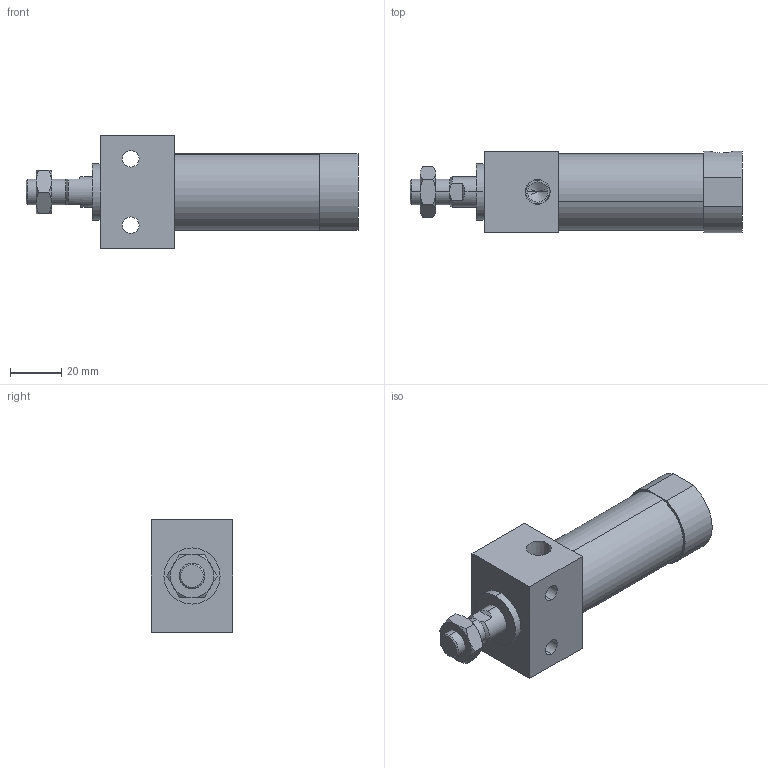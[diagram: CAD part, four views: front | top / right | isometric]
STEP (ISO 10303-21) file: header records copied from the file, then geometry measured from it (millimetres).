
FILE_DESCRIPTION (( 'STEP AP203' ), '1' );
FILE_NAME ('JGES2-25-25.STEP', '2016-04-20T07:06:32', ( '' ), ( '' ), 'SwSTEP 2.0', 'SolidWorks 2014', '' );
FILE_SCHEMA (( 'CONFIG_CONTROL_DESIGN' ));
Length unit declared in the file: millimetre
Products named in the file (5): JGES2-25B; JGES2-25-25; JGES2-25A; 25-25; M10x1.5-6mm
Assembly tree (4 placements, depth 2):
  JGES2-25-25
    JGES2-25B
    25-25
    JGES2-25A
    M10x1.5-6mm
Bounding box: 130 x 32 x 44 mm (x, y, z)
Volume: 92194.2 mm3; surface area: 21397.4 mm2
Topology: 4 solids, 4 shells, 85 faces, 186 edges, 113 vertices
Faces by surface type: plane 31, cylinder 26, cone 16, torus 12
Entity records: 2989 total; most frequent: CARTESIAN_POINT 621, DIRECTION 410, ORIENTED_EDGE 360, EDGE_CURVE 180, AXIS2_PLACEMENT_3D 170, VERTEX_POINT 113, EDGE_LOOP 101, FACE_OUTER_BOUND 85
